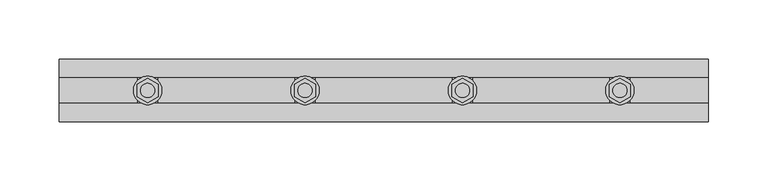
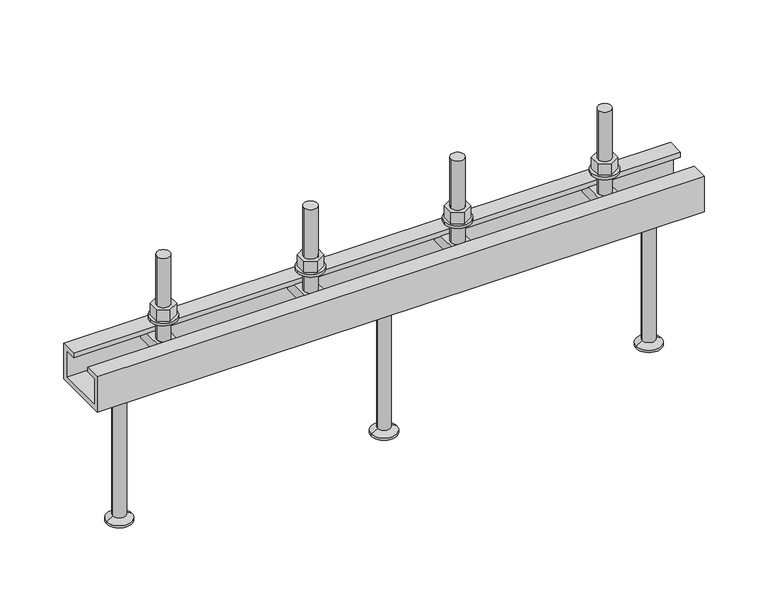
"""IFC4 building model written with IfcOpenShell, lengths in millimetres: fastener geometry, JTA-K JORDAHL® AnchorChannels : JTA-K L=550 mm."""

from ifc_helpers import new_model, si_unit, point, frame, frame_2d, origin, place, context, project, spatial, polyline, circle_curve, trimmed, segment, composite_curve, outline, extrude, source, transform, mapped, element, save
from ifc_brep_helpers import plane_surface, cylinder_surface, revolved_surface, advanced_brep


def fastener_1e1d3071(model_context):
    return source(origin(), model_context, "Body", "SolidModel", [
        extrude(outline(polyline([(341.6666667, -10.3923048), (332.6666667, -5.1961524), (332.6666667, 5.1961524), (341.6666667, 10.3923048), (350.6666667, 5.1961524), (350.6666667, -5.1961524), (341.6666667, -10.3923048)]), holes=[composite_curve([segment(trimmed(circle_curve(frame_2d((341.6666667, 0.0)), 6.0), [point((335.6666667, 0.0))], [point((347.6666667, 0.0))], True, "CARTESIAN"), True, "CONTINUOUS"), segment(trimmed(circle_curve(frame_2d((341.6666667, 0.0)), 6.0), [point((347.6666667, 0.0))], [point((335.6666667, 0.0))], True, "CARTESIAN"), True, "CONTINUOUS")], self_intersect=False)]), frame((0.0, 0.0, 17.5), z_axis=(0.0, 0.0, 1.0), x_axis=(1.0, 0.0, 0.0)), (0.0, 0.0, 1.0), 10.8),
        extrude(outline(composite_curve([segment(trimmed(circle_curve(frame_2d((341.6666667, 0.0)), 12.0), [point((329.6666667, 0.0))], [point((353.6666667, 0.0))], False, "CARTESIAN"), True, "CONTINUOUS"), segment(trimmed(circle_curve(frame_2d((341.6666667, 0.0)), 12.0), [point((353.6666667, 0.0))], [point((329.6666667, 0.0))], False, "CARTESIAN"), True, "CONTINUOUS")], self_intersect=False), holes=[composite_curve([segment(trimmed(circle_curve(frame_2d((341.6666667, 0.0)), 6.5), [point((335.1666667, 0.0))], [point((348.1666667, 0.0))], True, "CARTESIAN"), True, "CONTINUOUS"), segment(trimmed(circle_curve(frame_2d((341.6666667, 0.0)), 6.5), [point((348.1666667, 0.0))], [point((335.1666667, 0.0))], True, "CARTESIAN"), True, "CONTINUOUS")], self_intersect=False)]), frame((0.0, 0.0, 15.0), z_axis=(0.0, 0.0, 1.0), x_axis=(1.0, 0.0, 0.0)), (0.0, 0.0, 1.0), 2.5),
        extrude(outline(polyline([(208.3333333, -10.3923048), (199.3333333, -5.1961524), (199.3333333, 5.1961524), (208.3333333, 10.3923048), (217.3333333, 5.1961524), (217.3333333, -5.1961524), (208.3333333, -10.3923048)]), holes=[composite_curve([segment(trimmed(circle_curve(frame_2d((208.3333333, 0.0)), 6.0), [point((202.3333333, 0.0))], [point((214.3333333, 0.0))], True, "CARTESIAN"), True, "CONTINUOUS"), segment(trimmed(circle_curve(frame_2d((208.3333333, 0.0)), 6.0), [point((214.3333333, 0.0))], [point((202.3333333, 0.0))], True, "CARTESIAN"), True, "CONTINUOUS")], self_intersect=False)]), frame((0.0, 0.0, 17.5), z_axis=(0.0, 0.0, 1.0), x_axis=(1.0, 0.0, 0.0)), (0.0, 0.0, 1.0), 10.8),
        extrude(outline(composite_curve([segment(trimmed(circle_curve(frame_2d((208.3333333, 0.0)), 12.0), [point((196.3333333, 0.0))], [point((220.3333333, 0.0))], False, "CARTESIAN"), True, "CONTINUOUS"), segment(trimmed(circle_curve(frame_2d((208.3333333, 0.0)), 12.0), [point((220.3333333, 0.0))], [point((196.3333333, 0.0))], False, "CARTESIAN"), True, "CONTINUOUS")], self_intersect=False), holes=[composite_curve([segment(trimmed(circle_curve(frame_2d((208.3333333, 0.0)), 6.5), [point((201.8333333, 0.0))], [point((214.8333333, 0.0))], True, "CARTESIAN"), True, "CONTINUOUS"), segment(trimmed(circle_curve(frame_2d((208.3333333, 0.0)), 6.5), [point((214.8333333, 0.0))], [point((201.8333333, 0.0))], True, "CARTESIAN"), True, "CONTINUOUS")], self_intersect=False)]), frame((0.0, 0.0, 15.0), z_axis=(0.0, 0.0, 1.0), x_axis=(1.0, 0.0, 0.0)), (0.0, 0.0, 1.0), 2.5),
        advanced_brep(
        [(350.1666667, -20.7, -4.5), (350.1666667, -20.7, -14.5), (350.1666667, 20.7, -14.5), (350.1666667, 20.7, -4.5), (333.1666667, -20.7, -4.5), (333.1666667, 20.7, -4.5), (333.1666667, 20.7, -14.5), (333.1666667, -20.7, -14.5), (347.6666667, 0.0, -4.5), (335.6666667, 0.0, -4.5), (335.6666667, 0.0, 75.5), (347.6666667, 0.0, 75.5)],
        [
            (0, 1),
            (1, 2),
            (2, 3),
            (3, 0),
            (4, 5),
            (5, 6),
            (6, 7),
            (7, 4),
            (3, 5),
            (4, 0),
            (8, 9, circle_curve(frame((341.6666667, 0.0, -4.5), z_axis=(0.0, 0.0, -1.0), x_axis=(1.0, 0.0, 0.0)), 6.0)),
            (9, 8, circle_curve(frame((341.6666667, 0.0, -4.5), z_axis=(0.0, 0.0, -1.0), x_axis=(1.0, 0.0, 0.0)), 6.0)),
            (2, 6),
            (1, 7),
            (10, 11, circle_curve(frame((341.6666667, 0.0, 75.5), z_axis=(0.0, 0.0, 1.0), x_axis=(1.0, 0.0, 0.0)), 6.0)),
            (11, 10, circle_curve(frame((341.6666667, 0.0, 75.5), z_axis=(0.0, 0.0, 1.0), x_axis=(1.0, 0.0, 0.0)), 6.0)),
            (11, 8),
            (9, 10),
        ],
        [
            plane_surface(frame((350.1666667, 20.7, -4.5), z_axis=(1.0, 0.0, 0.0), x_axis=(0.0, 1.0, 0.0))),
            plane_surface(frame((333.1666667, 20.7, -4.5), z_axis=(-1.0, 0.0, 0.0), x_axis=(0.0, -1.0, 0.0))),
            plane_surface(frame((350.1666667, -20.7, -4.5), z_axis=(0.0, 0.0, 1.0), x_axis=(-1.0, 0.0, 0.0))),
            plane_surface(frame((350.1666667, 20.7, -4.5), z_axis=(0.0, 1.0, 0.0), x_axis=(-1.0, 0.0, 0.0))),
            plane_surface(frame((350.1666667, 20.7, -14.5), z_axis=(0.0, 0.0, -1.0), x_axis=(-1.0, 0.0, 0.0))),
            plane_surface(frame((350.1666667, -20.7, -14.5), z_axis=(0.0, -1.0, 0.0), x_axis=(-1.0, 0.0, 0.0))),
            plane_surface(frame((347.6666667, 0.0, 75.5), z_axis=(0.0, 0.0, 1.0), x_axis=(0.0, -1.0, 0.0))),
            cylinder_surface(frame((341.6666667, 0.0, -4.5), z_axis=(0.0, 0.0, 1.0), x_axis=(1.0, 0.0, 0.0)), 6.0),
        ],
        [
            (0, [[1, 2, 3, 4]]),
            (1, [[5, 6, 7, 8]]),
            (2, [[9, -5, 10, -4], [11, 12]]),
            (3, [[13, -6, -9, -3]]),
            (4, [[14, -7, -13, -2]]),
            (5, [[-10, -8, -14, -1]]),
            (6, [[15, 16]]),
            (7, [[17, -12, 18, -16]]),
            (7, [[-18, -11, -17, -15]]),
        ],
    ),
        advanced_brep(
        [(216.8333333, -20.7, -4.5), (216.8333333, -20.7, -14.5), (216.8333333, 20.7, -14.5), (216.8333333, 20.7, -4.5), (199.8333333, -20.7, -4.5), (199.8333333, 20.7, -4.5), (199.8333333, 20.7, -14.5), (199.8333333, -20.7, -14.5), (214.3333333, 0.0, -4.5), (202.3333333, 0.0, -4.5), (202.3333333, 0.0, 75.5), (214.3333333, 0.0, 75.5)],
        [
            (0, 1),
            (1, 2),
            (2, 3),
            (3, 0),
            (4, 5),
            (5, 6),
            (6, 7),
            (7, 4),
            (3, 5),
            (4, 0),
            (8, 9, circle_curve(frame((208.3333333, 0.0, -4.5), z_axis=(0.0, 0.0, -1.0), x_axis=(1.0, 0.0, 0.0)), 6.0)),
            (9, 8, circle_curve(frame((208.3333333, 0.0, -4.5), z_axis=(0.0, 0.0, -1.0), x_axis=(1.0, 0.0, 0.0)), 6.0)),
            (2, 6),
            (1, 7),
            (10, 11, circle_curve(frame((208.3333333, 0.0, 75.5), z_axis=(0.0, 0.0, 1.0), x_axis=(1.0, 0.0, 0.0)), 6.0)),
            (11, 10, circle_curve(frame((208.3333333, 0.0, 75.5), z_axis=(0.0, 0.0, 1.0), x_axis=(1.0, 0.0, 0.0)), 6.0)),
            (11, 8),
            (9, 10),
        ],
        [
            plane_surface(frame((216.8333333, 20.7, -4.5), z_axis=(1.0, 0.0, 0.0), x_axis=(0.0, 1.0, 0.0))),
            plane_surface(frame((199.8333333, 20.7, -4.5), z_axis=(-1.0, 0.0, 0.0), x_axis=(0.0, -1.0, 0.0))),
            plane_surface(frame((216.8333333, -20.7, -4.5), z_axis=(0.0, 0.0, 1.0), x_axis=(-1.0, 0.0, 0.0))),
            plane_surface(frame((216.8333333, 20.7, -4.5), z_axis=(0.0, 1.0, 0.0), x_axis=(-1.0, 0.0, 0.0))),
            plane_surface(frame((216.8333333, 20.7, -14.5), z_axis=(0.0, 0.0, -1.0), x_axis=(-1.0, 0.0, 0.0))),
            plane_surface(frame((216.8333333, -20.7, -14.5), z_axis=(0.0, -1.0, 0.0), x_axis=(-1.0, 0.0, 0.0))),
            plane_surface(frame((214.3333333, 0.0, 75.5), z_axis=(0.0, 0.0, 1.0), x_axis=(0.0, -1.0, 0.0))),
            cylinder_surface(frame((208.3333333, 0.0, -4.5), z_axis=(0.0, 0.0, 1.0), x_axis=(1.0, 0.0, 0.0)), 6.0),
        ],
        [
            (0, [[1, 2, 3, 4]]),
            (1, [[5, 6, 7, 8]]),
            (2, [[9, -5, 10, -4], [11, 12]]),
            (3, [[13, -6, -9, -3]]),
            (4, [[14, -7, -13, -2]]),
            (5, [[-10, -8, -14, -1]]),
            (6, [[15, 16]]),
            (7, [[17, -12, 18, -16]]),
            (7, [[-18, -11, -17, -15]]),
        ],
    ),
        advanced_brep(
        [(275.0, 0.0, -34.0), (257.5, 0.0, -34.0), (292.5, 0.0, -34.0), (263.5, 0.0, -165.0), (275.0, 0.0, -165.0), (286.5, 0.0, -165.0), (263.5, 0.0, -163.0), (286.5, 0.0, -163.0), (269.2, 0.0, -159.7091035), (280.8, 0.0, -159.7091035), (269.2, 0.0, -37.0), (280.8, 0.0, -37.0)],
        [
            (0, 1),
            (1, 2, circle_curve(frame((275.0, 0.0, -34.0), z_axis=(0.0, 0.0, 1.0), x_axis=(1.0, 0.0, 0.0)), 17.5)),
            (2, 0),
            (2, 1, circle_curve(frame((275.0, 0.0, -34.0), z_axis=(0.0, 0.0, 1.0), x_axis=(1.0, 0.0, 0.0)), 17.5)),
            (3, 4),
            (4, 5),
            (5, 3, circle_curve(frame((275.0, 0.0, -165.0), z_axis=(0.0, 0.0, -1.0), x_axis=(1.0, 0.0, 0.0)), 11.5)),
            (3, 5, circle_curve(frame((275.0, 0.0, -165.0), z_axis=(0.0, 0.0, -1.0), x_axis=(1.0, 0.0, 0.0)), 11.5)),
            (6, 3),
            (5, 7),
            (7, 6, circle_curve(frame((275.0, 0.0, -163.0), z_axis=(0.0, 0.0, -1.0), x_axis=(1.0, 0.0, 0.0)), 11.5)),
            (6, 7, circle_curve(frame((275.0, 0.0, -163.0), z_axis=(0.0, 0.0, -1.0), x_axis=(1.0, 0.0, 0.0)), 11.5)),
            (8, 6),
            (7, 9),
            (9, 8, circle_curve(frame((275.0, 0.0, -159.7091035), z_axis=(0.0, 0.0, -1.0), x_axis=(1.0, 0.0, 0.0)), 5.8)),
            (8, 9, circle_curve(frame((275.0, 0.0, -159.7091035), z_axis=(0.0, 0.0, -1.0), x_axis=(1.0, 0.0, 0.0)), 5.8)),
            (10, 8),
            (9, 11),
            (11, 10, circle_curve(frame((275.0, 0.0, -37.0), z_axis=(0.0, 0.0, -1.0), x_axis=(1.0, 0.0, 0.0)), 5.8)),
            (10, 11, circle_curve(frame((275.0, 0.0, -37.0), z_axis=(0.0, 0.0, -1.0), x_axis=(1.0, 0.0, 0.0)), 5.8)),
            (1, 10),
            (11, 2),
        ],
        [
            plane_surface(frame((275.0, 0.0, -34.0), z_axis=(0.0, 0.0, 1.0), x_axis=(1.0, 0.0, 0.0))),
            plane_surface(frame((275.0, 0.0, -165.0), z_axis=(0.0, 0.0, -1.0), x_axis=(1.0, 0.0, 0.0))),
            cylinder_surface(frame((275.0, 0.0, 2345.3150031), z_axis=(0.0, 0.0, 1.0), x_axis=(1.0, 0.0, 0.0)), 11.5),
            revolved_surface(polyline([(286.5, 0.0, -163.0), (280.8, 0.0, -159.7091035)]), (275.0, 0.0, 2345.3150031), (0.0, 0.0, 1.0)),
            cylinder_surface(frame((275.0, 0.0, 2345.3150031), z_axis=(0.0, 0.0, 1.0), x_axis=(1.0, 0.0, 0.0)), 5.8),
            revolved_surface(polyline([(280.8, 0.0, -37.0), (292.5, 0.0, -34.0)]), (275.0, 0.0, 2345.3150031), (0.0, 0.0, 1.0)),
        ],
        [
            (0, [[1, 2, 3]]),
            (0, [[-3, 4, -1]]),
            (1, [[5, 6, 7]]),
            (1, [[-6, -5, 8]]),
            (2, [[9, -7, 10, 11]]),
            (2, [[-10, -8, -9, 12]]),
            (3, [[13, -11, 14, 15]]),
            (3, [[-14, -12, -13, 16]]),
            (4, [[17, -15, 18, 19]]),
            (4, [[-18, -16, -17, 20]]),
            (5, [[21, -19, 22, -2]]),
            (5, [[-22, -20, -21, -4]]),
        ],
    ),
        extrude(outline(polyline([(475.0, -10.3923048), (466.0, -5.1961524), (466.0, 5.1961524), (475.0, 10.3923048), (484.0, 5.1961524), (484.0, -5.1961524), (475.0, -10.3923048)]), holes=[composite_curve([segment(trimmed(circle_curve(frame_2d((475.0, 0.0)), 6.0), [point((469.0, 0.0))], [point((481.0, 0.0))], True, "CARTESIAN"), True, "CONTINUOUS"), segment(trimmed(circle_curve(frame_2d((475.0, 0.0)), 6.0), [point((481.0, 0.0))], [point((469.0, 0.0))], True, "CARTESIAN"), True, "CONTINUOUS")], self_intersect=False)]), frame((0.0, 0.0, 17.5), z_axis=(0.0, 0.0, 1.0), x_axis=(1.0, 0.0, 0.0)), (0.0, 0.0, 1.0), 10.8),
        extrude(outline(composite_curve([segment(trimmed(circle_curve(frame_2d((475.0, 0.0)), 12.0), [point((463.0, 0.0))], [point((487.0, 0.0))], False, "CARTESIAN"), True, "CONTINUOUS"), segment(trimmed(circle_curve(frame_2d((475.0, 0.0)), 12.0), [point((487.0, 0.0))], [point((463.0, 0.0))], False, "CARTESIAN"), True, "CONTINUOUS")], self_intersect=False), holes=[composite_curve([segment(trimmed(circle_curve(frame_2d((475.0, 0.0)), 6.5), [point((468.5, 0.0))], [point((481.5, 0.0))], True, "CARTESIAN"), True, "CONTINUOUS"), segment(trimmed(circle_curve(frame_2d((475.0, 0.0)), 6.5), [point((481.5, 0.0))], [point((468.5, 0.0))], True, "CARTESIAN"), True, "CONTINUOUS")], self_intersect=False)]), frame((0.0, 0.0, 15.0), z_axis=(0.0, 0.0, 1.0), x_axis=(1.0, 0.0, 0.0)), (0.0, 0.0, 1.0), 2.5),
        extrude(outline(polyline([(75.0, -10.3923048), (66.0, -5.1961524), (66.0, 5.1961524), (75.0, 10.3923048), (84.0, 5.1961524), (84.0, -5.1961524), (75.0, -10.3923048)]), holes=[composite_curve([segment(trimmed(circle_curve(frame_2d((75.0, 0.0)), 6.0), [point((69.0, 0.0))], [point((81.0, 0.0))], True, "CARTESIAN"), True, "CONTINUOUS"), segment(trimmed(circle_curve(frame_2d((75.0, 0.0)), 6.0), [point((81.0, 0.0))], [point((69.0, 0.0))], True, "CARTESIAN"), True, "CONTINUOUS")], self_intersect=False)]), frame((0.0, 0.0, 17.5), z_axis=(0.0, 0.0, 1.0), x_axis=(1.0, 0.0, 0.0)), (0.0, 0.0, 1.0), 10.8),
        extrude(outline(composite_curve([segment(trimmed(circle_curve(frame_2d((75.0, 0.0)), 12.0), [point((63.0, 0.0))], [point((87.0, 0.0))], False, "CARTESIAN"), True, "CONTINUOUS"), segment(trimmed(circle_curve(frame_2d((75.0, 0.0)), 12.0), [point((87.0, 0.0))], [point((63.0, 0.0))], False, "CARTESIAN"), True, "CONTINUOUS")], self_intersect=False), holes=[composite_curve([segment(trimmed(circle_curve(frame_2d((75.0, 0.0)), 6.5), [point((68.5, 0.0))], [point((81.5, 0.0))], True, "CARTESIAN"), True, "CONTINUOUS"), segment(trimmed(circle_curve(frame_2d((75.0, 0.0)), 6.5), [point((81.5, 0.0))], [point((68.5, 0.0))], True, "CARTESIAN"), True, "CONTINUOUS")], self_intersect=False)]), frame((0.0, 0.0, 15.0), z_axis=(0.0, 0.0, 1.0), x_axis=(1.0, 0.0, 0.0)), (0.0, 0.0, 1.0), 2.5),
        advanced_brep(
        [(483.5, -20.7, -4.5), (483.5, -20.7, -14.5), (483.5, 20.7, -14.5), (483.5, 20.7, -4.5), (466.5, -20.7, -4.5), (466.5, 20.7, -4.5), (466.5, 20.7, -14.5), (466.5, -20.7, -14.5), (481.0, 0.0, -4.5), (469.0, 0.0, -4.5), (469.0, 0.0, 75.5), (481.0, 0.0, 75.5)],
        [
            (0, 1),
            (1, 2),
            (2, 3),
            (3, 0),
            (4, 5),
            (5, 6),
            (6, 7),
            (7, 4),
            (3, 5),
            (4, 0),
            (8, 9, circle_curve(frame((475.0, 0.0, -4.5), z_axis=(0.0, 0.0, -1.0), x_axis=(1.0, 0.0, 0.0)), 6.0)),
            (9, 8, circle_curve(frame((475.0, 0.0, -4.5), z_axis=(0.0, 0.0, -1.0), x_axis=(1.0, 0.0, 0.0)), 6.0)),
            (2, 6),
            (1, 7),
            (10, 11, circle_curve(frame((475.0, 0.0, 75.5), z_axis=(0.0, 0.0, 1.0), x_axis=(1.0, 0.0, 0.0)), 6.0)),
            (11, 10, circle_curve(frame((475.0, 0.0, 75.5), z_axis=(0.0, 0.0, 1.0), x_axis=(1.0, 0.0, 0.0)), 6.0)),
            (11, 8),
            (9, 10),
        ],
        [
            plane_surface(frame((483.5, 20.7, -4.5), z_axis=(1.0, 0.0, 0.0), x_axis=(0.0, 1.0, 0.0))),
            plane_surface(frame((466.5, 20.7, -4.5), z_axis=(-1.0, 0.0, 0.0), x_axis=(0.0, -1.0, 0.0))),
            plane_surface(frame((483.5, -20.7, -4.5), z_axis=(0.0, 0.0, 1.0), x_axis=(-1.0, 0.0, 0.0))),
            plane_surface(frame((483.5, 20.7, -4.5), z_axis=(0.0, 1.0, 0.0), x_axis=(-1.0, 0.0, 0.0))),
            plane_surface(frame((483.5, 20.7, -14.5), z_axis=(0.0, 0.0, -1.0), x_axis=(-1.0, 0.0, 0.0))),
            plane_surface(frame((483.5, -20.7, -14.5), z_axis=(0.0, -1.0, 0.0), x_axis=(-1.0, 0.0, 0.0))),
            plane_surface(frame((481.0, 0.0, 75.5), z_axis=(0.0, 0.0, 1.0), x_axis=(0.0, -1.0, 0.0))),
            cylinder_surface(frame((475.0, 0.0, -4.5), z_axis=(0.0, 0.0, 1.0), x_axis=(1.0, 0.0, 0.0)), 6.0),
        ],
        [
            (0, [[1, 2, 3, 4]]),
            (1, [[5, 6, 7, 8]]),
            (2, [[9, -5, 10, -4], [11, 12]]),
            (3, [[13, -6, -9, -3]]),
            (4, [[14, -7, -13, -2]]),
            (5, [[-10, -8, -14, -1]]),
            (6, [[15, 16]]),
            (7, [[17, -12, 18, -16]]),
            (7, [[-18, -11, -17, -15]]),
        ],
    ),
        advanced_brep(
        [(83.5, -20.7, -4.5), (83.5, -20.7, -14.5), (83.5, 20.7, -14.5), (83.5, 20.7, -4.5), (66.5, -20.7, -4.5), (66.5, 20.7, -4.5), (66.5, 20.7, -14.5), (66.5, -20.7, -14.5), (81.0, 0.0, -4.5), (69.0, 0.0, -4.5), (69.0, 0.0, 75.5), (81.0, 0.0, 75.5)],
        [
            (0, 1),
            (1, 2),
            (2, 3),
            (3, 0),
            (4, 5),
            (5, 6),
            (6, 7),
            (7, 4),
            (3, 5),
            (4, 0),
            (8, 9, circle_curve(frame((75.0, 0.0, -4.5), z_axis=(0.0, 0.0, -1.0), x_axis=(1.0, 0.0, 0.0)), 6.0)),
            (9, 8, circle_curve(frame((75.0, 0.0, -4.5), z_axis=(0.0, 0.0, -1.0), x_axis=(1.0, 0.0, 0.0)), 6.0)),
            (2, 6),
            (1, 7),
            (10, 11, circle_curve(frame((75.0, 0.0, 75.5), z_axis=(0.0, 0.0, 1.0), x_axis=(1.0, 0.0, 0.0)), 6.0)),
            (11, 10, circle_curve(frame((75.0, 0.0, 75.5), z_axis=(0.0, 0.0, 1.0), x_axis=(1.0, 0.0, 0.0)), 6.0)),
            (11, 8),
            (9, 10),
        ],
        [
            plane_surface(frame((83.5, 20.7, -4.5), z_axis=(1.0, 0.0, 0.0), x_axis=(0.0, 1.0, 0.0))),
            plane_surface(frame((66.5, 20.7, -4.5), z_axis=(-1.0, 0.0, 0.0), x_axis=(0.0, -1.0, 0.0))),
            plane_surface(frame((83.5, -20.7, -4.5), z_axis=(0.0, 0.0, 1.0), x_axis=(-1.0, 0.0, 0.0))),
            plane_surface(frame((83.5, 20.7, -4.5), z_axis=(0.0, 1.0, 0.0), x_axis=(-1.0, 0.0, 0.0))),
            plane_surface(frame((83.5, 20.7, -14.5), z_axis=(0.0, 0.0, -1.0), x_axis=(-1.0, 0.0, 0.0))),
            plane_surface(frame((83.5, -20.7, -14.5), z_axis=(0.0, -1.0, 0.0), x_axis=(-1.0, 0.0, 0.0))),
            plane_surface(frame((81.0, 0.0, 75.5), z_axis=(0.0, 0.0, 1.0), x_axis=(0.0, -1.0, 0.0))),
            cylinder_surface(frame((75.0, 0.0, -4.5), z_axis=(0.0, 0.0, 1.0), x_axis=(1.0, 0.0, 0.0)), 6.0),
        ],
        [
            (0, [[1, 2, 3, 4]]),
            (1, [[5, 6, 7, 8]]),
            (2, [[9, -5, 10, -4], [11, 12]]),
            (3, [[13, -6, -9, -3]]),
            (4, [[14, -7, -13, -2]]),
            (5, [[-10, -8, -14, -1]]),
            (6, [[15, 16]]),
            (7, [[17, -12, 18, -16]]),
            (7, [[-18, -11, -17, -15]]),
        ],
    ),
        advanced_brep(
        [(515.0, 0.0, -34.0), (497.5, 0.0, -34.0), (532.5, 0.0, -34.0), (503.5, 0.0, -165.0), (515.0, 0.0, -165.0), (526.5, 0.0, -165.0), (503.5, 0.0, -163.0), (526.5, 0.0, -163.0), (509.2, 0.0, -159.7091035), (520.8, 0.0, -159.7091035), (509.2, 0.0, -37.0), (520.8, 0.0, -37.0)],
        [
            (0, 1),
            (1, 2, circle_curve(frame((515.0, 0.0, -34.0), z_axis=(0.0, 0.0, 1.0), x_axis=(1.0, 0.0, 0.0)), 17.5)),
            (2, 0),
            (2, 1, circle_curve(frame((515.0, 0.0, -34.0), z_axis=(0.0, 0.0, 1.0), x_axis=(1.0, 0.0, 0.0)), 17.5)),
            (3, 4),
            (4, 5),
            (5, 3, circle_curve(frame((515.0, 0.0, -165.0), z_axis=(0.0, 0.0, -1.0), x_axis=(1.0, 0.0, 0.0)), 11.5)),
            (3, 5, circle_curve(frame((515.0, 0.0, -165.0), z_axis=(0.0, 0.0, -1.0), x_axis=(1.0, 0.0, 0.0)), 11.5)),
            (6, 3),
            (5, 7),
            (7, 6, circle_curve(frame((515.0, 0.0, -163.0), z_axis=(0.0, 0.0, -1.0), x_axis=(1.0, 0.0, 0.0)), 11.5)),
            (6, 7, circle_curve(frame((515.0, 0.0, -163.0), z_axis=(0.0, 0.0, -1.0), x_axis=(1.0, 0.0, 0.0)), 11.5)),
            (8, 6),
            (7, 9),
            (9, 8, circle_curve(frame((515.0, 0.0, -159.7091035), z_axis=(0.0, 0.0, -1.0), x_axis=(1.0, 0.0, 0.0)), 5.8)),
            (8, 9, circle_curve(frame((515.0, 0.0, -159.7091035), z_axis=(0.0, 0.0, -1.0), x_axis=(1.0, 0.0, 0.0)), 5.8)),
            (10, 8),
            (9, 11),
            (11, 10, circle_curve(frame((515.0, 0.0, -37.0), z_axis=(0.0, 0.0, -1.0), x_axis=(1.0, 0.0, 0.0)), 5.8)),
            (10, 11, circle_curve(frame((515.0, 0.0, -37.0), z_axis=(0.0, 0.0, -1.0), x_axis=(1.0, 0.0, 0.0)), 5.8)),
            (1, 10),
            (11, 2),
        ],
        [
            plane_surface(frame((515.0, 0.0, -34.0), z_axis=(0.0, 0.0, 1.0), x_axis=(1.0, 0.0, 0.0))),
            plane_surface(frame((515.0, 0.0, -165.0), z_axis=(0.0, 0.0, -1.0), x_axis=(1.0, 0.0, 0.0))),
            cylinder_surface(frame((515.0, 0.0, 2345.3150031), z_axis=(0.0, 0.0, 1.0), x_axis=(1.0, 0.0, 0.0)), 11.5),
            revolved_surface(polyline([(526.5, 0.0, -163.0), (520.8, 0.0, -159.7091035)]), (515.0, 0.0, 2345.3150031), (0.0, 0.0, 1.0)),
            cylinder_surface(frame((515.0, 0.0, 2345.3150031), z_axis=(0.0, 0.0, 1.0), x_axis=(1.0, 0.0, 0.0)), 5.8),
            revolved_surface(polyline([(520.8, 0.0, -37.0), (532.5, 0.0, -34.0)]), (515.0, 0.0, 2345.3150031), (0.0, 0.0, 1.0)),
        ],
        [
            (0, [[1, 2, 3]]),
            (0, [[-3, 4, -1]]),
            (1, [[5, 6, 7]]),
            (1, [[-6, -5, 8]]),
            (2, [[9, -7, 10, 11]]),
            (2, [[-10, -8, -9, 12]]),
            (3, [[13, -11, 14, 15]]),
            (3, [[-14, -12, -13, 16]]),
            (4, [[17, -15, 18, 19]]),
            (4, [[-18, -16, -17, 20]]),
            (5, [[21, -19, 22, -2]]),
            (5, [[-22, -20, -21, -4]]),
        ],
    ),
        advanced_brep(
        [(35.0, 0.0, -34.0), (17.5, 0.0, -34.0), (52.5, 0.0, -34.0), (23.5, 0.0, -165.0), (35.0, 0.0, -165.0), (46.5, 0.0, -165.0), (23.5, 0.0, -163.0), (46.5, 0.0, -163.0), (29.2, 0.0, -159.7091035), (40.8, 0.0, -159.7091035), (29.2, 0.0, -37.0), (40.8, 0.0, -37.0)],
        [
            (0, 1),
            (1, 2, circle_curve(frame((35.0, 0.0, -34.0), z_axis=(0.0, 0.0, 1.0), x_axis=(1.0, 0.0, 0.0)), 17.5)),
            (2, 0),
            (2, 1, circle_curve(frame((35.0, 0.0, -34.0), z_axis=(0.0, 0.0, 1.0), x_axis=(1.0, 0.0, 0.0)), 17.5)),
            (3, 4),
            (4, 5),
            (5, 3, circle_curve(frame((35.0, 0.0, -165.0), z_axis=(0.0, 0.0, -1.0), x_axis=(1.0, 0.0, 0.0)), 11.5)),
            (3, 5, circle_curve(frame((35.0, 0.0, -165.0), z_axis=(0.0, 0.0, -1.0), x_axis=(1.0, 0.0, 0.0)), 11.5)),
            (6, 3),
            (5, 7),
            (7, 6, circle_curve(frame((35.0, 0.0, -163.0), z_axis=(0.0, 0.0, -1.0), x_axis=(1.0, 0.0, 0.0)), 11.5)),
            (6, 7, circle_curve(frame((35.0, 0.0, -163.0), z_axis=(0.0, 0.0, -1.0), x_axis=(1.0, 0.0, 0.0)), 11.5)),
            (8, 6),
            (7, 9),
            (9, 8, circle_curve(frame((35.0, 0.0, -159.7091035), z_axis=(0.0, 0.0, -1.0), x_axis=(1.0, 0.0, 0.0)), 5.8)),
            (8, 9, circle_curve(frame((35.0, 0.0, -159.7091035), z_axis=(0.0, 0.0, -1.0), x_axis=(1.0, 0.0, 0.0)), 5.8)),
            (10, 8),
            (9, 11),
            (11, 10, circle_curve(frame((35.0, 0.0, -37.0), z_axis=(0.0, 0.0, -1.0), x_axis=(1.0, 0.0, 0.0)), 5.8)),
            (10, 11, circle_curve(frame((35.0, 0.0, -37.0), z_axis=(0.0, 0.0, -1.0), x_axis=(1.0, 0.0, 0.0)), 5.8)),
            (1, 10),
            (11, 2),
        ],
        [
            plane_surface(frame((35.0, 0.0, -34.0), z_axis=(0.0, 0.0, 1.0), x_axis=(1.0, 0.0, 0.0))),
            plane_surface(frame((35.0, 0.0, -165.0), z_axis=(0.0, 0.0, -1.0), x_axis=(1.0, 0.0, 0.0))),
            cylinder_surface(frame((35.0, 0.0, 2345.3150031), z_axis=(0.0, 0.0, 1.0), x_axis=(1.0, 0.0, 0.0)), 11.5),
            revolved_surface(polyline([(46.5, 0.0, -163.0), (40.8, 0.0, -159.7091035)]), (35.0, 0.0, 2345.3150031), (0.0, 0.0, 1.0)),
            cylinder_surface(frame((35.0, 0.0, 2345.3150031), z_axis=(0.0, 0.0, 1.0), x_axis=(1.0, 0.0, 0.0)), 5.8),
            revolved_surface(polyline([(40.8, 0.0, -37.0), (52.5, 0.0, -34.0)]), (35.0, 0.0, 2345.3150031), (0.0, 0.0, 1.0)),
        ],
        [
            (0, [[1, 2, 3]]),
            (0, [[-3, 4, -1]]),
            (1, [[5, 6, 7]]),
            (1, [[-6, -5, 8]]),
            (2, [[9, -7, 10, 11]]),
            (2, [[-10, -8, -9, 12]]),
            (3, [[13, -11, 14, 15]]),
            (3, [[-14, -12, -13, 16]]),
            (4, [[17, -15, 18, 19]]),
            (4, [[-18, -16, -17, 20]]),
            (5, [[21, -19, 22, -2]]),
            (5, [[-22, -20, -21, -4]]),
        ],
    ),
        extrude(outline(polyline([(-26.5, 0.0), (-11.0, 0.0), (-11.0, -4.5), (-22.0, -4.5), (-22.0, -29.5), (22.0, -29.5), (22.0, -4.5), (11.0, -4.5), (11.0, 0.0), (26.5, 0.0), (26.5, -34.0), (-26.5, -34.0), (-26.5, 0.0)])), frame((0.0, 0.0, 0.0), z_axis=(1.0, 0.0, 0.0), x_axis=(0.0, 1.0, 0.0)), (0.0, 0.0, 1.0), 550.0),
    ])


if __name__ == "__main__":
    model = new_model("IFC4")
    model_context = context("Model", 3, world=origin())
    ifc_project = project(units=[si_unit("LENGTHUNIT", "METRE", prefix="MILLI")], contexts=[model_context])
    site = spatial("IfcSite", under=ifc_project)
    building = spatial("IfcBuilding", under=site)
    placement = place(None, origin())
    fastener_shape = fastener_1e1d3071(model_context)
    element("IfcFastener", 1, ObjectType="JTA-K JORDAHL® AnchorChannels : JTA-K L=550 mm", at=placement, inside=building, context=model_context, shape_type="MappedRepresentation", body=[
        mapped(fastener_shape, transform((0.0, 0.0, 0.0), x_axis=(1.0, 0.0, 0.0), y_axis=(0.0, 1.0, 0.0), z_axis=(0.0, 0.0, 1.0))),
    ])
    save(model, "model.ifc")
